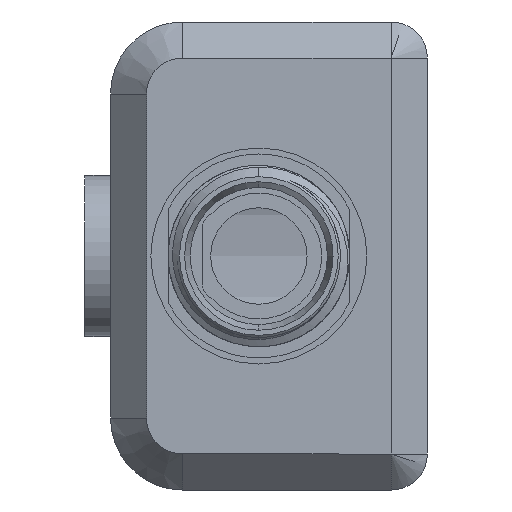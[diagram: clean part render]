
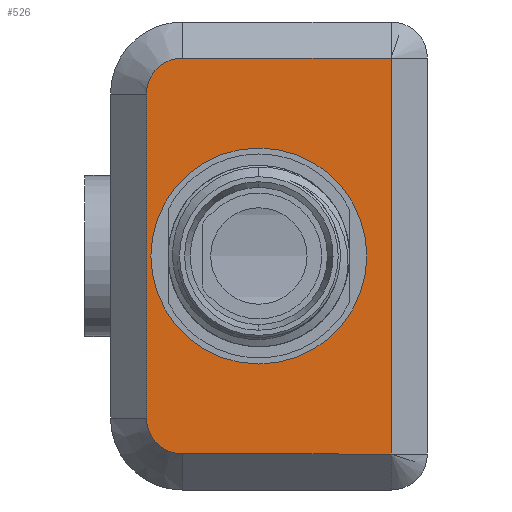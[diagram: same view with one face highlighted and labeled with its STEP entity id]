
A CAD part, left-side view. The second image highlights one B-rep face of the part: STEP entity #526.
In plain terms, the highlighted planar face has unit normal (-1, 0, 0).
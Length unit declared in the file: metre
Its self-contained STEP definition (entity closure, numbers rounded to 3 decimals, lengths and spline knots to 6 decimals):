
#71 = VERTEX_POINT ( 'NONE', #10600 ) ;
#284 = VERTEX_POINT ( 'NONE', #1134 ) ;
#400 = DIRECTION ( 'NONE',  ( 0., 0., 1. ) ) ;
#444 = VECTOR ( 'NONE', #12745, 1. ) ;
#526 = ADVANCED_FACE ( 'NONE', ( #5405, #5533 ), #4345, .T. ) ;
#1134 = CARTESIAN_POINT ( 'NONE',  ( -0.0889, 0.003556, 0.017463 ) ) ;
#1178 = ORIENTED_EDGE ( 'NONE', *, *, #5194, .F. ) ;
#1188 = EDGE_CURVE ( 'NONE', #71, #284, #7303, .T. ) ;
#1258 = DIRECTION ( 'NONE',  ( -1., 0., 0. ) ) ;
#1313 = DIRECTION ( 'NONE',  ( 0., 0., 1. ) ) ;
#1615 = DIRECTION ( 'NONE',  ( 0., 0., -1. ) ) ;
#2005 = CARTESIAN_POINT ( 'NONE',  ( -0.0889, -0.003175, -0.009525 ) ) ;
#2222 = VERTEX_POINT ( 'NONE', #2799 ) ;
#2286 = AXIS2_PLACEMENT_3D ( 'NONE', #2945, #7029, #9438 ) ;
#2388 = VECTOR ( 'NONE', #10454, 1. ) ;
#2799 = CARTESIAN_POINT ( 'NONE',  ( -0.0889, 0.006731, 0.014288 ) ) ;
#2800 = EDGE_CURVE ( 'NONE', #284, #2222, #7930, .T. ) ;
#2945 = CARTESIAN_POINT ( 'NONE',  ( -0.0889, 0.003556, -0.014287 ) ) ;
#3240 = CIRCLE ( 'NONE', #7309, 0.009525 ) ;
#3384 = CARTESIAN_POINT ( 'NONE',  ( -0.0889, -0.018034, 0.020638 ) ) ;
#3566 = ORIENTED_EDGE ( 'NONE', *, *, #10602, .T. ) ;
#3651 = EDGE_CURVE ( 'NONE', #7882, #8760, #7744, .T. ) ;
#3749 = ORIENTED_EDGE ( 'NONE', *, *, #3651, .F. ) ;
#4118 = ORIENTED_EDGE ( 'NONE', *, *, #12633, .T. ) ;
#4212 = DIRECTION ( 'NONE',  ( 0., 0., 1. ) ) ;
#4345 = PLANE ( 'NONE',  #5500 ) ;
#4378 = CARTESIAN_POINT ( 'NONE',  ( -0.0889, 0.003556, 0.014288 ) ) ;
#4963 = CARTESIAN_POINT ( 'NONE',  ( -0.0889, 0.006731, -0.014287 ) ) ;
#5194 = EDGE_CURVE ( 'NONE', #8760, #7882, #3240, .T. ) ;
#5211 = CARTESIAN_POINT ( 'NONE',  ( -0.0889, -0.014859, -0.017462 ) ) ;
#5405 = FACE_OUTER_BOUND ( 'NONE', #8585, .T. ) ;
#5500 = AXIS2_PLACEMENT_3D ( 'NONE', #3384, #10498, #1313 ) ;
#5533 = FACE_BOUND ( 'NONE', #7840, .T. ) ;
#5612 = AXIS2_PLACEMENT_3D ( 'NONE', #10508, #8308, #4212 ) ;
#6203 = CARTESIAN_POINT ( 'NONE',  ( -0.0889, -0.014859, 0.017463 ) ) ;
#6303 = CARTESIAN_POINT ( 'NONE',  ( -0.0889, -0.018034, 0.017463 ) ) ;
#6576 = DIRECTION ( 'NONE',  ( -1., 0., 0. ) ) ;
#7029 = DIRECTION ( 'NONE',  ( -1., 0., 0. ) ) ;
#7303 = LINE ( 'NONE', #6303, #2388 ) ;
#7309 = AXIS2_PLACEMENT_3D ( 'NONE', #10442, #1258, #9425 ) ;
#7744 = CIRCLE ( 'NONE', #5612, 0.009525 ) ;
#7825 = LINE ( 'NONE', #9928, #8377 ) ;
#7840 = EDGE_LOOP ( 'NONE', ( #3749, #1178 ) ) ;
#7882 = VERTEX_POINT ( 'NONE', #9777 ) ;
#7930 = CIRCLE ( 'NONE', #9873, 0.003175 ) ;
#8136 = VECTOR ( 'NONE', #400, 1. ) ;
#8228 = ORIENTED_EDGE ( 'NONE', *, *, #1188, .T. ) ;
#8308 = DIRECTION ( 'NONE',  ( -1., 0., 0. ) ) ;
#8377 = VECTOR ( 'NONE', #1615, 1. ) ;
#8456 = DIRECTION ( 'NONE',  ( 0., 0., 1. ) ) ;
#8585 = EDGE_LOOP ( 'NONE', ( #3566, #4118, #8603, #8228, #11630, #11355 ) ) ;
#8603 = ORIENTED_EDGE ( 'NONE', *, *, #12420, .T. ) ;
#8760 = VERTEX_POINT ( 'NONE', #2005 ) ;
#8825 = VERTEX_POINT ( 'NONE', #4963 ) ;
#9425 = DIRECTION ( 'NONE',  ( 0., 0., 1. ) ) ;
#9438 = DIRECTION ( 'NONE',  ( 0., 0., 1. ) ) ;
#9777 = CARTESIAN_POINT ( 'NONE',  ( -0.0889, -0.003175, 0.009525 ) ) ;
#9786 = LINE ( 'NONE', #10745, #444 ) ;
#9873 = AXIS2_PLACEMENT_3D ( 'NONE', #4378, #6576, #8456 ) ;
#9928 = CARTESIAN_POINT ( 'NONE',  ( -0.0889, 0.006731, 0.020638 ) ) ;
#10173 = CARTESIAN_POINT ( 'NONE',  ( -0.0889, 0.003556, -0.017462 ) ) ;
#10442 = CARTESIAN_POINT ( 'NONE',  ( -0.0889, -0.003175, 0. ) ) ;
#10454 = DIRECTION ( 'NONE',  ( 0., 1., 0. ) ) ;
#10498 = DIRECTION ( 'NONE',  ( -1., 0., 0. ) ) ;
#10508 = CARTESIAN_POINT ( 'NONE',  ( -0.0889, -0.003175, 0. ) ) ;
#10600 = CARTESIAN_POINT ( 'NONE',  ( -0.0889, -0.014859, 0.017463 ) ) ;
#10602 = EDGE_CURVE ( 'NONE', #8825, #13108, #11936, .T. ) ;
#10745 = CARTESIAN_POINT ( 'NONE',  ( -0.0889, -0.018034, -0.017462 ) ) ;
#11355 = ORIENTED_EDGE ( 'NONE', *, *, #12611, .T. ) ;
#11441 = LINE ( 'NONE', #6203, #8136 ) ;
#11630 = ORIENTED_EDGE ( 'NONE', *, *, #2800, .T. ) ;
#11936 = CIRCLE ( 'NONE', #2286, 0.003175 ) ;
#12420 = EDGE_CURVE ( 'NONE', #13176, #71, #11441, .T. ) ;
#12611 = EDGE_CURVE ( 'NONE', #2222, #8825, #7825, .T. ) ;
#12633 = EDGE_CURVE ( 'NONE', #13108, #13176, #9786, .T. ) ;
#12745 = DIRECTION ( 'NONE',  ( 0., -1., 0. ) ) ;
#13108 = VERTEX_POINT ( 'NONE', #10173 ) ;
#13176 = VERTEX_POINT ( 'NONE', #5211 ) ;
